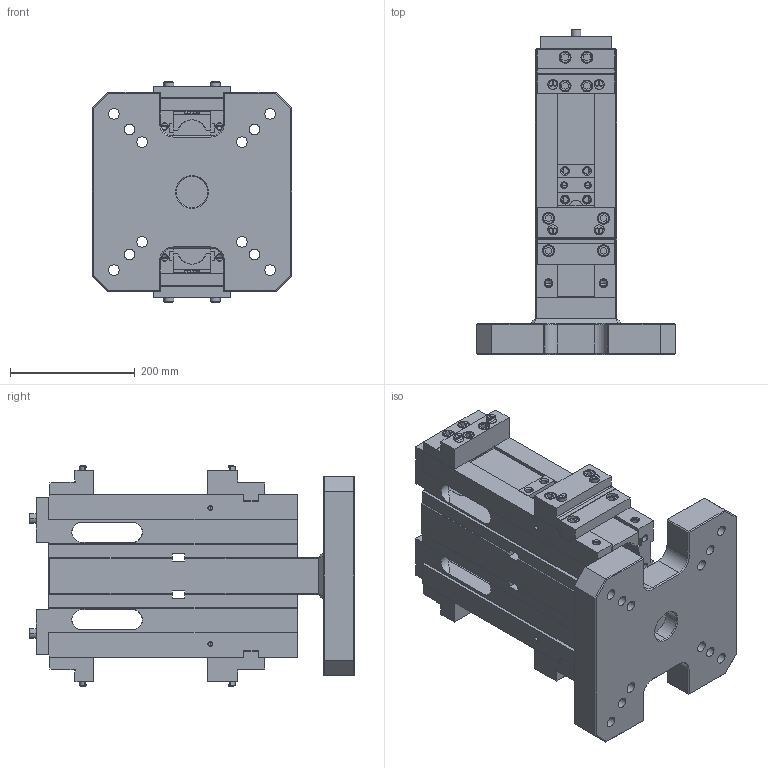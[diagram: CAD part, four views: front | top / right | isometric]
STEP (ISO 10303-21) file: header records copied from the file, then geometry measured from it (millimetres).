
FILE_DESCRIPTION((''),'2;1');
FILE_NAME('FG_WH_TOMB_00BKBNP001_ASM','2026-06-14T13:58:59',('Admin'),(''),'CREO PARAMETRIC BY PTC INC, 2025010','CREO PARAMETRIC BY PTC INC, 2025010','');
FILE_SCHEMA(('CONFIG_CONTROL_DESIGN'));
Length unit declared in the file: metre
Products named in the file (12): FG_WH_TOMB_00BKBNP001; FIX_JAW_TITAN125_3; DIN912-M12X45-12_9; DIN912-M12X25-12_9; FASE_0_2X450_1; _8078202012200_-_ROTATION1__1; 6921884036000_1_ASM_1_ASM; FIX_JAW_SC_ASM; MOVABLE_JAW_LC125_2; 6921884036000_ASM_1_ASM; MOVABLE_JAW_SC_ASM; FG_WH_TOMB_00BKBNP001_ASM
Assembly tree (22 placements, depth 5):
  FG_WH_TOMB_00BKBNP001_ASM
    FG_WH_TOMB_00BKBNP001
    FIX_JAW_SC_ASM  x2
      FIX_JAW_TITAN125_3
      DIN912-M12X45-12_9
      DIN912-M12X25-12_9
      6921884036000_1_ASM_1_ASM
        FASE_0_2X450_1
        _8078202012200_-_ROTATION1__1
    MOVABLE_JAW_SC_ASM  x2
      MOVABLE_JAW_LC125_2
      DIN912-M12X25-12_9
      DIN912-M12X45-12_9
      6921884036000_ASM_1_ASM
        6921884036000_1_ASM_1_ASM
          FASE_0_2X450_1
          _8078202012200_-_ROTATION1__1
Bounding box: 320 x 521 x 353.2 mm (x, y, z)
Volume: 14900199.6 mm3; surface area: 1320715.6 mm2
Topology: 37 solids, 134 shells, 2123 faces, 5580 edges, 3647 vertices
Faces by surface type: plane 961, cylinder 720, cone 314, torus 112, bspline 16
Entity records: 49096 total; most frequent: CARTESIAN_POINT 13852, DIRECTION 7341, ORIENTED_EDGE 7012, EDGE_CURVE 3680, AXIS2_PLACEMENT_3D 2649, VERTEX_POINT 2477, VECTOR 2043, LINE 2043
